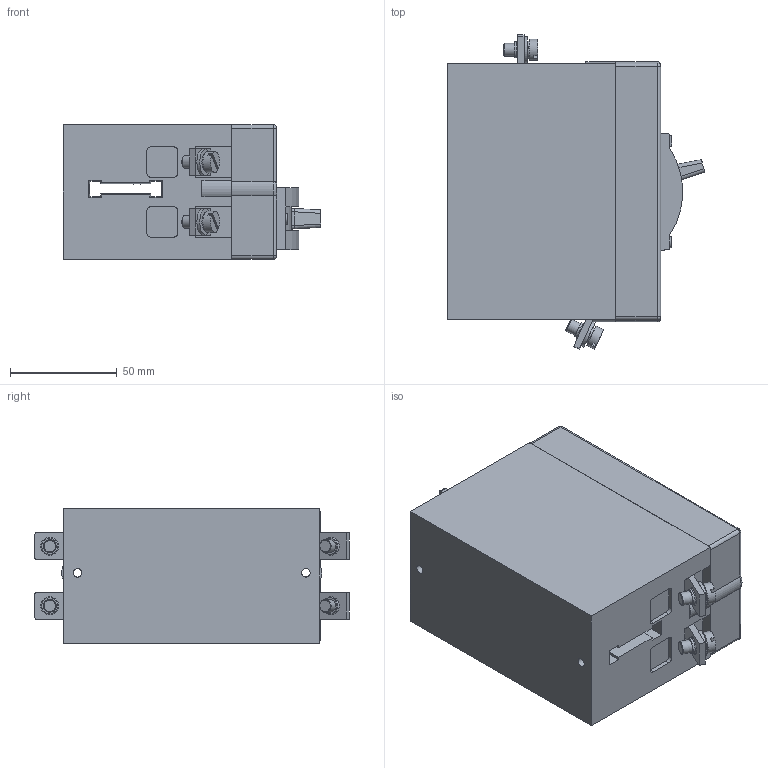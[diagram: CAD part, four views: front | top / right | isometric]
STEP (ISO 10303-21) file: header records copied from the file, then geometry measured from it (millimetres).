
FILE_DESCRIPTION (( 'STEP AP203' ), '1' );
FILE_NAME ('ÂÀ21-29-2ïîë.STEP', '2020-09-28T07:32:50', ( '' ), ( '' ), 'SwSTEP 2.0', 'SolidWorks 2018', '' );
FILE_SCHEMA (( 'CONFIG_CONTROL_DESIGN' ));
Length unit declared in the file: millimetre
Products named in the file (1): ÂÀ21-29-2ïîë
Bounding box: 120.68 x 147.25 x 63 mm (x, y, z)
Surface area: 81422.7 mm2 (no closed solid volume)
Topology: 0 solids, 25 shells, 251 faces, 719 edges, 490 vertices
Faces by surface type: plane 158, cylinder 69, bspline 10, torus 6, sphere 4, cone 4
Full cylindrical faces by diameter (mm): 2.6 x1, 4 x5, 5 x1, 6 x4, 7.5 x4, 8.5 x2, 9 x2, 10 x4, 12.5 x4
Entity records: 8262 total; most frequent: CARTESIAN_POINT 1876, DIRECTION 1312, ORIENTED_EDGE 1135, EDGE_CURVE 660, VERTEX_POINT 476, AXIS2_PLACEMENT_3D 441, VECTOR 430, LINE 430
